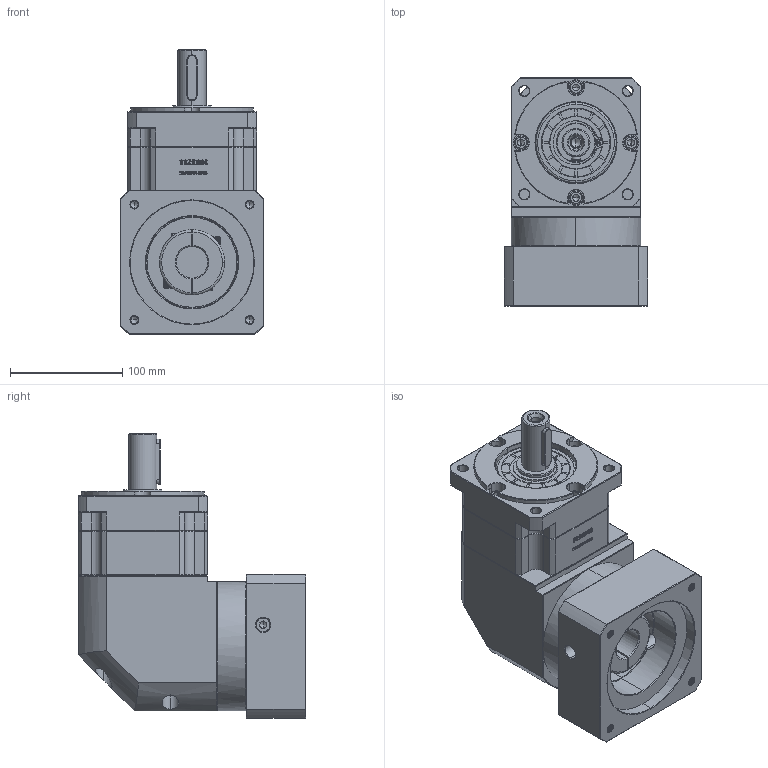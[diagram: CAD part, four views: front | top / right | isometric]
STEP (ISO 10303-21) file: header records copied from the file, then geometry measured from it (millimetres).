
FILE_DESCRIPTION (( 'STEP AP214' ), '1' );
FILE_NAME ('ZBR115A-D25-L1-28-110-145-M8.step', '2023-03-03T04:56:00', ( '' ), ( 'Microsoft' ), 'SwSTEP 2.0', 'SolidWorks 2016', '' );
FILE_SCHEMA (( 'AUTOMOTIVE_DESIGN' ));
Length unit declared in the file: millimetre
Products named in the file (1): ZBR115A-D25-L1-28-110-145-M8
Bounding box: 128 x 202.4 x 253 mm (x, y, z)
Volume: 3147093.7 mm3; surface area: 261310.6 mm2
Topology: 6 solids, 6 shells, 2983 faces, 7913 edges, 5073 vertices
Faces by surface type: plane 1560, bspline 607, cylinder 439, cone 369, torus 8
Entity records: 161756 total; most frequent: CARTESIAN_POINT 59796, ORIENTED_EDGE 15766, DIRECTION 11926, EDGE_CURVE 7883, VECTOR 5310, LINE 5310, VERTEX_POINT 5073, AXIS2_PLACEMENT_3D 3308
